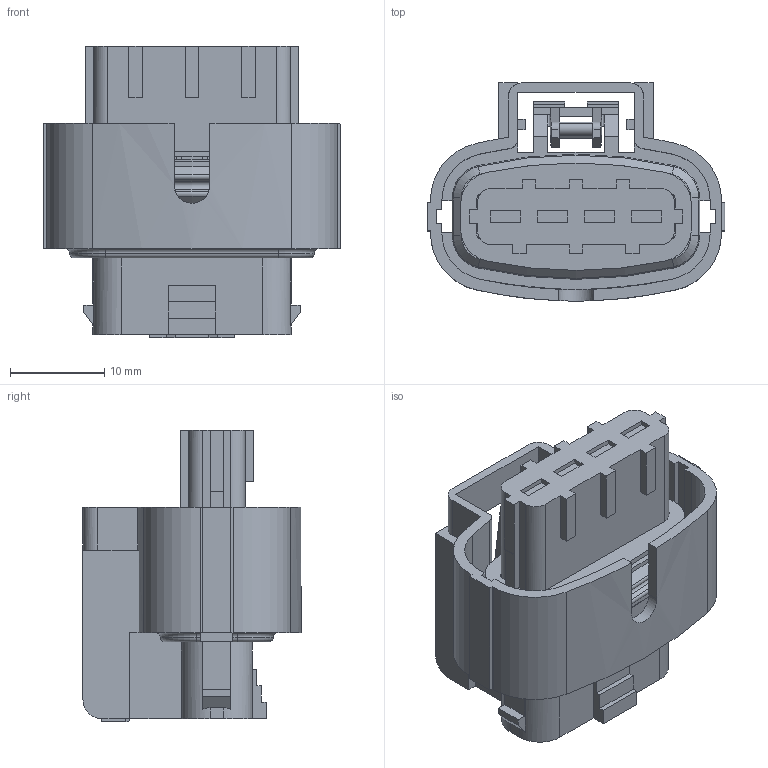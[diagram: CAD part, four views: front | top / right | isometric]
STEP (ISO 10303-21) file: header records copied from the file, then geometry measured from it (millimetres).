
FILE_DESCRIPTION(/* description */ (''),/* implementation_level */ '2;1');
FILE_NAME(/* name */ '13856355-STEP-3D.stp',/* time_stamp */ '2021-06-07T14:31:13+05:00',/* author */ (''),/* organization */ (''),/* preprocessor_version */ 'ST-DEVELOPER v16.7',/* originating_system */ 'SIEMENS PLM Software NX 12.0',/* authorisation */ '');
FILE_SCHEMA (('AUTOMOTIVE_DESIGN { 1 0 10303 214 3 1 1 1 }'));
Length unit declared in the file: millimetre
Products named in the file (1): cjzt2E28E062boez
Bounding box: 31.6 x 23.16 x 31 mm (x, y, z)
Volume: 7780.7 mm3; surface area: 6616.9 mm2
Topology: 1 solids, 1 shells, 518 faces, 1482 edges, 960 vertices
Faces by surface type: plane 330, cylinder 138, torus 26, cone 24
Entity records: 16897 total; most frequent: CARTESIAN_POINT 2979, ORIENTED_EDGE 2964, DIRECTION 2883, EDGE_CURVE 1482, LINE 1115, VECTOR 1115, VERTEX_POINT 960, AXIS2_PLACEMENT_3D 884
